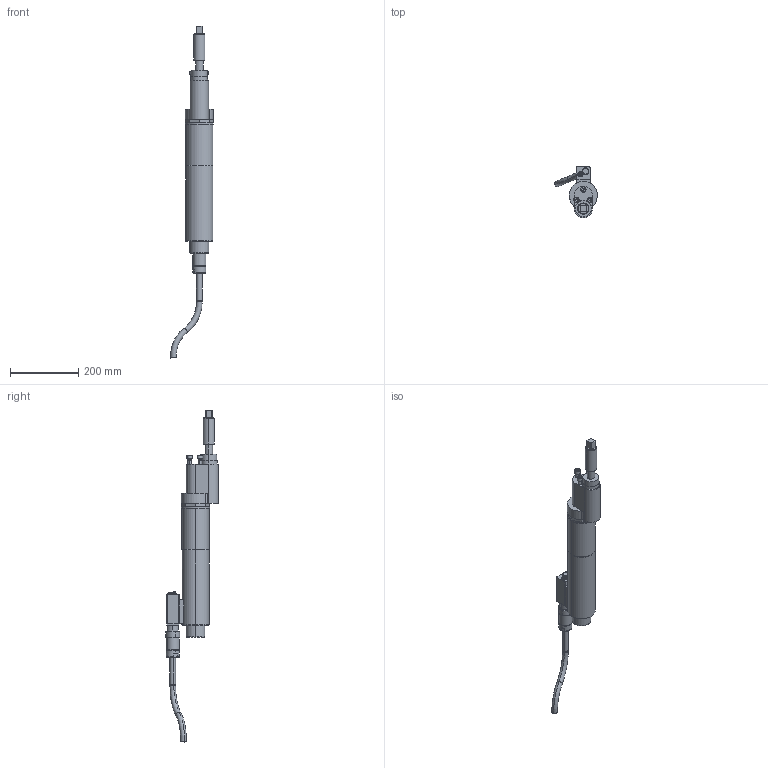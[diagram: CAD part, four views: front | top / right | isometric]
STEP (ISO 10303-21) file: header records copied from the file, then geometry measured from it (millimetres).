
FILE_DESCRIPTION(('CATIA V5 STEP Exchange','CAx-IF Rec.Pracs.--- Model Styling and Organization---1.2---2011-12-15'),'2;1');
FILE_NAME('O:\3D-Schrauber\Einschauschrauber Groesse3 CATIA V4+V5\7920200_ECR334_AO325_AllCATPart.stp','2015-11-13T13:18:00+00:00',('none'),('none'),'CATIA Version 5-6 Release 2014 SP1 HF29','CATIA V5 STEP AP214','none');
FILE_SCHEMA(('AUTOMOTIVE_DESIGN { 1 0 10303 214 1 1 1 1 }'));
Length unit declared in the file: millimetre
Products named in the file (1): 7920200_ECR334_AO325_AllCATPart
Bounding box: 124.97 x 152.33 x 970.16 mm (x, y, z)
Volume: 2947944.9 mm3; surface area: 245319.6 mm2
Topology: 11 solids, 11 shells, 294 faces, 658 edges, 411 vertices
Faces by surface type: plane 124, cylinder 102, cone 44, torus 24
Entity records: 7748 total; most frequent: CARTESIAN_POINT 1597, ORIENTED_EDGE 1304, DIRECTION 1054, EDGE_CURVE 652, AXIS2_PLACEMENT_3D 530, VERTEX_POINT 411, EDGE_LOOP 325, CIRCLE 308
